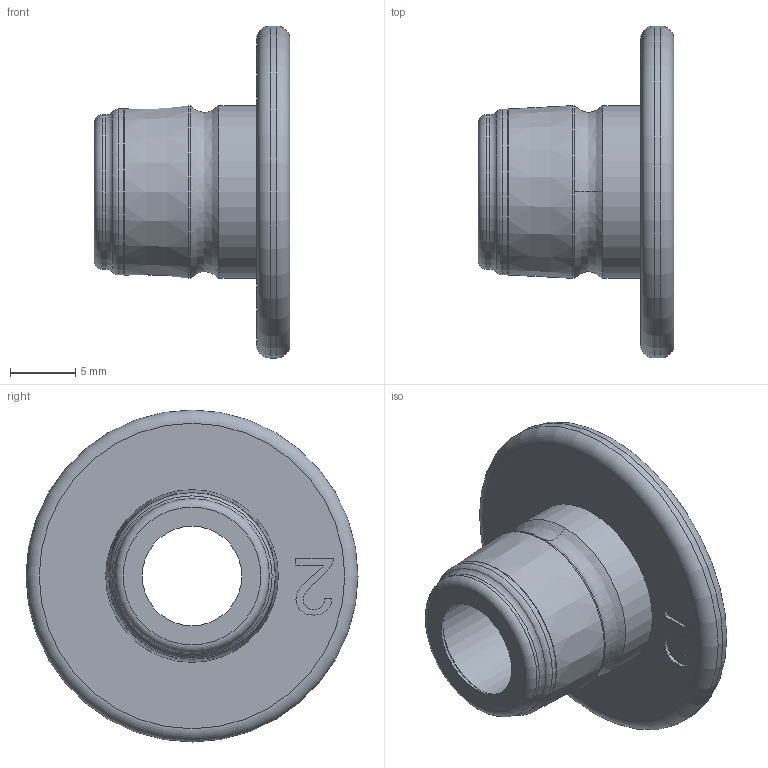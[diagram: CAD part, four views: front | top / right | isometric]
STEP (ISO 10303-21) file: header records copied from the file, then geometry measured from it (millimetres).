
FILE_DESCRIPTION(/* description */ (''),/* implementation_level */ '2;1');
FILE_NAME(/* name */ 'iMM-6 Half Inch Calibrator Adaptor.step',/* time_stamp */ '2025-11-17T15:10:17-05:00',/* author */ (''),/* organization */ (''),/* preprocessor_version */ 'ST-DEVELOPER v20.1',/* originating_system */ 'Autodesk Translation Framework v14.21.0.0',/* authorisation */ '');
FILE_SCHEMA (('AUTOMOTIVE_DESIGN { 1 0 10303 214 3 1 1 }'));
Length unit declared in the file: inch
Products named in the file (1): iMM-6 1/2" Calibrator Adaptor - good fit
Bounding box: 14.99 x 25.4 x 25.4 mm (x, y, z)
Surface area: 1920.4 mm2
Topology: 1 solids, 2 shells, 54 faces, 147 edges, 96 vertices
Faces by surface type: bspline 24, torus 11, plane 10, cylinder 8, cone 1
Full cylindrical faces by diameter (mm): 8.509 x1, 9.398 x1, 11.811 x1, 12.7 x1, 13.208 x2, 25.4 x1
Entity records: 2261 total; most frequent: CARTESIAN_POINT 980, ORIENTED_EDGE 292, DIRECTION 214, EDGE_CURVE 146, VERTEX_POINT 96, AXIS2_PLACEMENT_3D 86, EDGE_LOOP 59, CIRCLE 55
